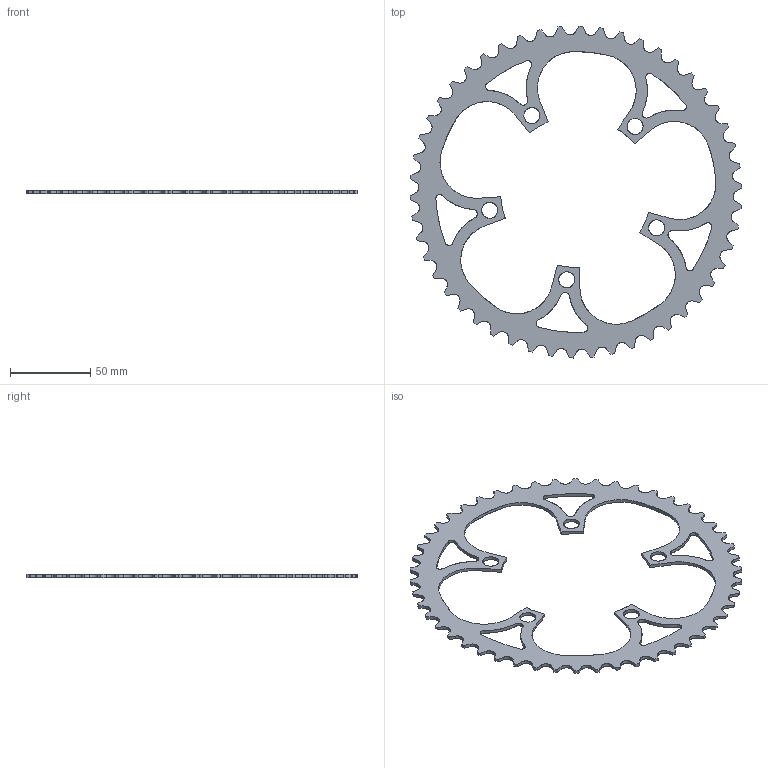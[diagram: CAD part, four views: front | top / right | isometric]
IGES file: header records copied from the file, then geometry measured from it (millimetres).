
Global section: file name: d:\work\Kettenblatt-50z.igs; preprocessor: I-DEAS 3D IGES Translator 11; date: 20081028.213335; units: millimetre
Bounding box: 206.94 x 206.97 x 2 mm (x, y, z)
Surface area: 26315 mm2 (no closed solid volume)
Topology: 0 solids, 0 shells, 273 faces, 1666 edges, 1666 vertices
Faces by surface type: bspline 273
